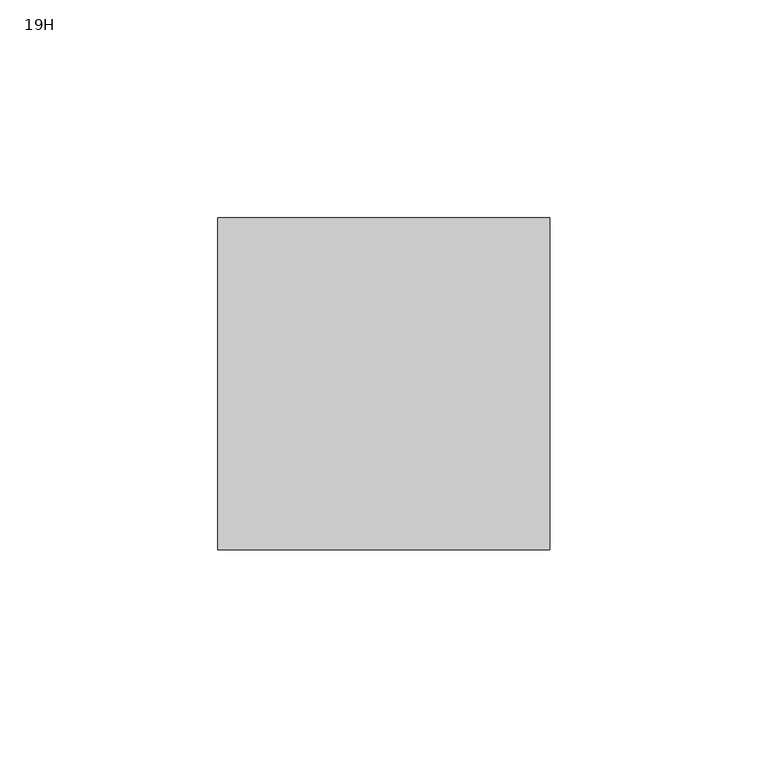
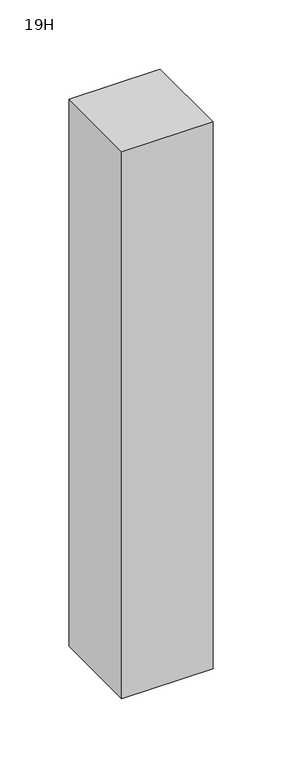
"""IFC4 building model written with IfcOpenShell, lengths in millimetres: furniture geometry, Steelcase - Montage - Power and Cable Pole : 19H."""

from ifc_helpers import new_model, si_unit, frame, origin, place, context, project, spatial, polyline, outline, extrude, source, transform, mapped, element, save


def furniture_19h_3db2cf9d(model_context):
    return source(origin(), model_context, "Body", "SweptSolid", [
        extrude(outline(polyline([(0.0, -76.2), (0.0, 0.0), (76.2, 0.0), (76.2, -76.2), (0.0, -76.2)])), frame((0.0, 0.0, 2187.5750969), z_axis=(0.0, 0.0, 1.0), x_axis=(1.0, 0.0, 0.0)), (0.0, 0.0, 1.0), 482.6),
    ])


if __name__ == "__main__":
    model = new_model("IFC4")
    model_context = context("Model", 3, world=origin())
    ifc_project = project(units=[si_unit("LENGTHUNIT", "METRE", prefix="MILLI")], contexts=[model_context])
    site = spatial("IfcSite", under=ifc_project)
    building = spatial("IfcBuilding", under=site)
    placement = place(None, origin())
    furniture_19h_shape = furniture_19h_3db2cf9d(model_context)
    element("IfcFurniture", 1, ObjectType="Steelcase - Montage - Power and Cable Pole : 19H", at=placement, inside=building, context=model_context, shape_type="MappedRepresentation", body=[
        mapped(furniture_19h_shape, transform((0.0, 0.0, 0.0), x_axis=(1.0, 0.0, 0.0), y_axis=(0.0, 1.0, 0.0), z_axis=(0.0, 0.0, 1.0))),
    ])
    save(model, "model.ifc")
